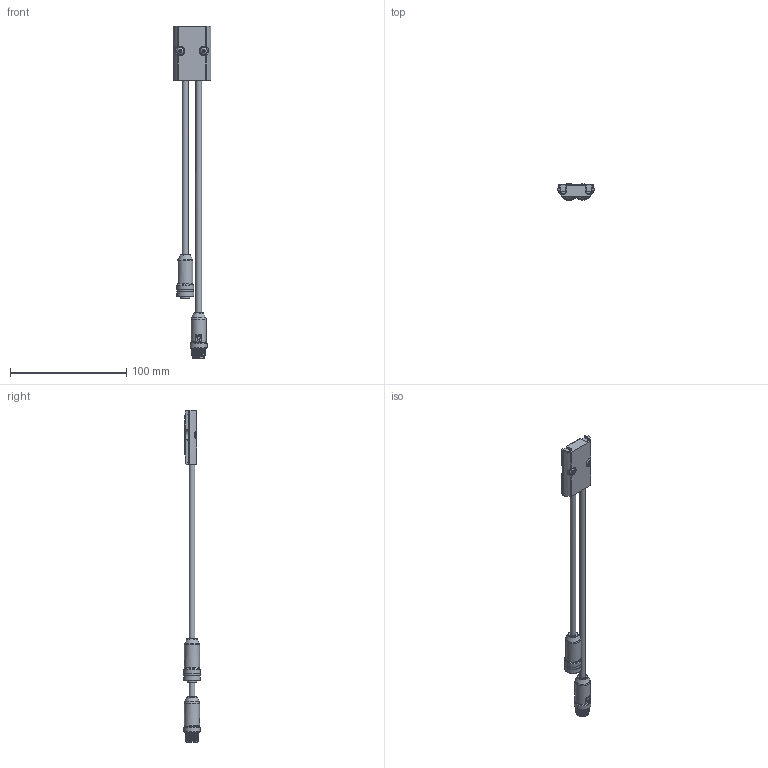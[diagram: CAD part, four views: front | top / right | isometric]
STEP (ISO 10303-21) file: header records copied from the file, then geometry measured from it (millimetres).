
FILE_DESCRIPTION(/* description */ (''),/* implementation_level */ '2;1');
FILE_NAME(/* name */ '12+5.stp',/* time_stamp */ '2022-12-01T17:02:13+01:00',/* author */ (''),/* organization */ (''),/* preprocessor_version */ 'ST-DEVELOPER v16.701',/* originating_system */ 'SIEMENS PLM Software NX 1946',/* authorisation */ '');
FILE_SCHEMA (('AP203_CONFIGURATION_CONTROLLED_3D_DESIGN_OF_MECHANICAL_PARTS_AND_ASSEMBLIES_MIM_LF { 1 0 10303 403 2 1 2}'));
Length unit declared in the file: millimetre
Products named in the file (1): MRos3D04D64D7erw
Bounding box: 32 x 14.5 x 285.2 mm (x, y, z)
Volume: 27661.4 mm3; surface area: 16146.6 mm2
Topology: 1 solids, 2 shells, 447 faces, 1192 edges, 789 vertices
Faces by surface type: plane 165, cylinder 142, cone 40, bspline 39, torus 35, sphere 26
Full cylindrical faces by diameter (mm): 0.6 x12, 1.1 x5, 1.6 x5, 1.75 x5, 5 x2, 5.5 x2, 8.25 x1, 9.5 x2, 9.7 x1, 9.9 x1, 10 x1, 10.6 x3, 11 x1, 11.857 x3, 11.957 x1, 13 x2, 14 x1, 14.5 x3
Entity records: 18182 total; most frequent: CARTESIAN_POINT 7917, DIRECTION 2077, ORIENTED_EDGE 2058, EDGE_CURVE 1029, AXIS2_PLACEMENT_3D 877, VERTEX_POINT 734, EDGE_LOOP 587, ADVANCED_FACE 443
